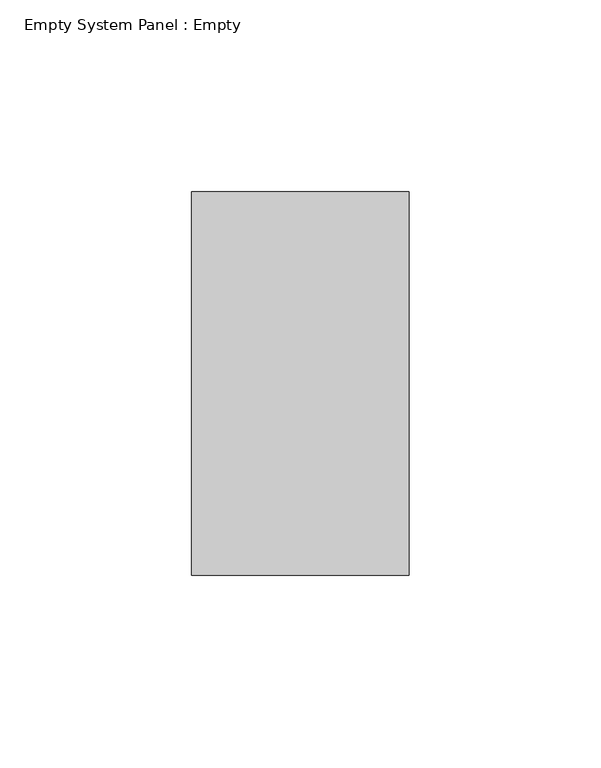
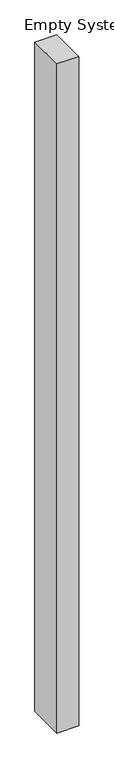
"""IFC4 building model written with IfcOpenShell, lengths in millimetres: plate geometry, Empty System Panel : Empty."""

from ifc_helpers import new_model, si_unit, origin, origin_with_axes, place, context, project, spatial, polyline, outline, extrude, source, transform, mapped, element, save


def empty_system_panel_empty_bfaef90a(model_context):
    return source(origin(), model_context, "Body", "SweptSolid", [
        extrude(outline(polyline([(28.3881342, -150.0), (-28.3881342, -150.0), (-28.3881342, -50.0), (28.3881342, -50.0), (28.3881342, -150.0)])), origin_with_axes(), (0.0, 0.0, 1.0), 1852.0),
    ])


if __name__ == "__main__":
    model = new_model("IFC4")
    model_context = context("Model", 3, world=origin())
    ifc_project = project(units=[si_unit("LENGTHUNIT", "METRE", prefix="MILLI")], contexts=[model_context])
    site = spatial("IfcSite", under=ifc_project)
    building = spatial("IfcBuilding", under=site)
    placement = place(None, origin())
    empty_system_panel_empty_shape = empty_system_panel_empty_bfaef90a(model_context)
    element("IfcPlate", 1, ObjectType="Empty System Panel : Empty", at=placement, inside=building, context=model_context, shape_type="MappedRepresentation", body=[
        mapped(empty_system_panel_empty_shape, transform((0.0, 0.0, 0.0), x_axis=(1.0, 0.0, 0.0), y_axis=(0.0, 1.0, 0.0), z_axis=(0.0, 0.0, 1.0))),
    ])
    save(model, "model.ifc")
